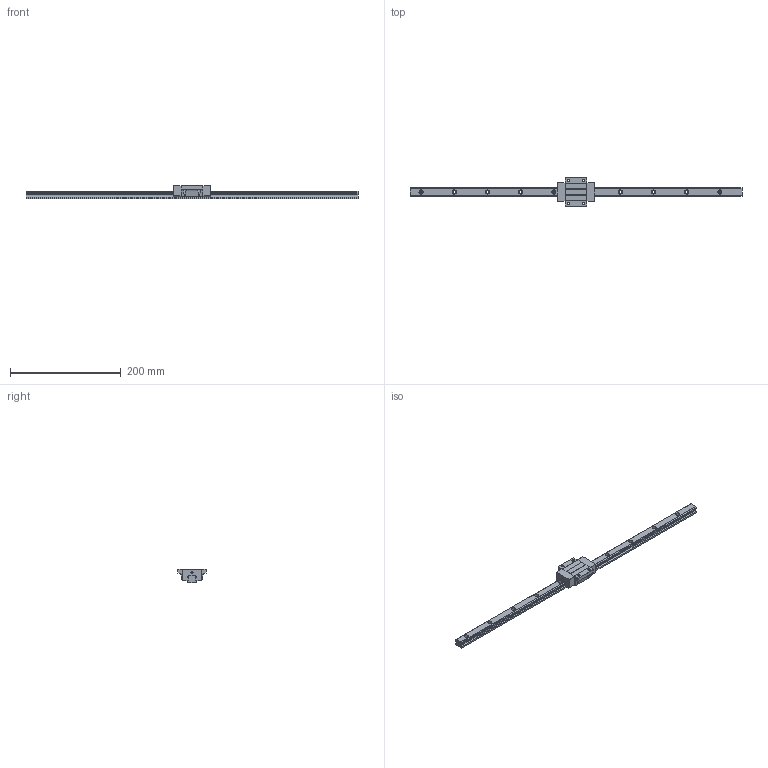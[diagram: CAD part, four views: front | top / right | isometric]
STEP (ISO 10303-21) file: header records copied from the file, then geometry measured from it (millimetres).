
FILE_DESCRIPTION (( 'STEP AP203' ), '1' );
FILE_NAME ('TRS15FN-WW-§ï.STEP', '2023-08-31T02:51:37', ( '' ), ( '' ), 'SwSTEP 2.0', 'SolidWorks 2022', '' );
FILE_SCHEMA (( 'CONFIG_CONTROL_DESIGN' ));
Length unit declared in the file: millimetre
Products named in the file (1): TRS15FN-WW-改
Bounding box: 600 x 52 x 24 mm (x, y, z)
Volume: 144732.6 mm3; surface area: 47133.1 mm2
Topology: 1 solids, 1 shells, 207 faces, 570 edges, 370 vertices
Faces by surface type: cylinder 108, plane 95, sphere 4
Entity records: 7116 total; most frequent: CARTESIAN_POINT 1583, DIRECTION 1166, ORIENTED_EDGE 1132, EDGE_CURVE 566, AXIS2_PLACEMENT_3D 414, VERTEX_POINT 370, LINE 338, VECTOR 338
